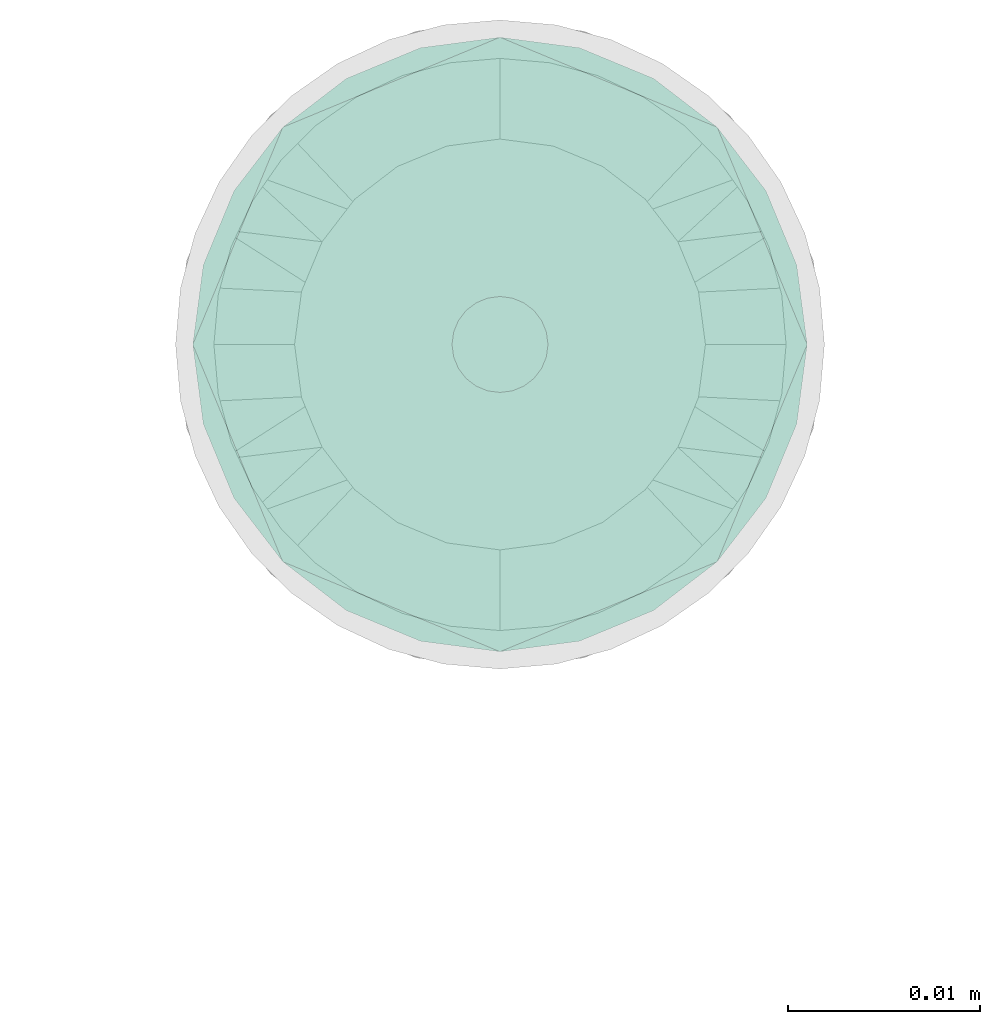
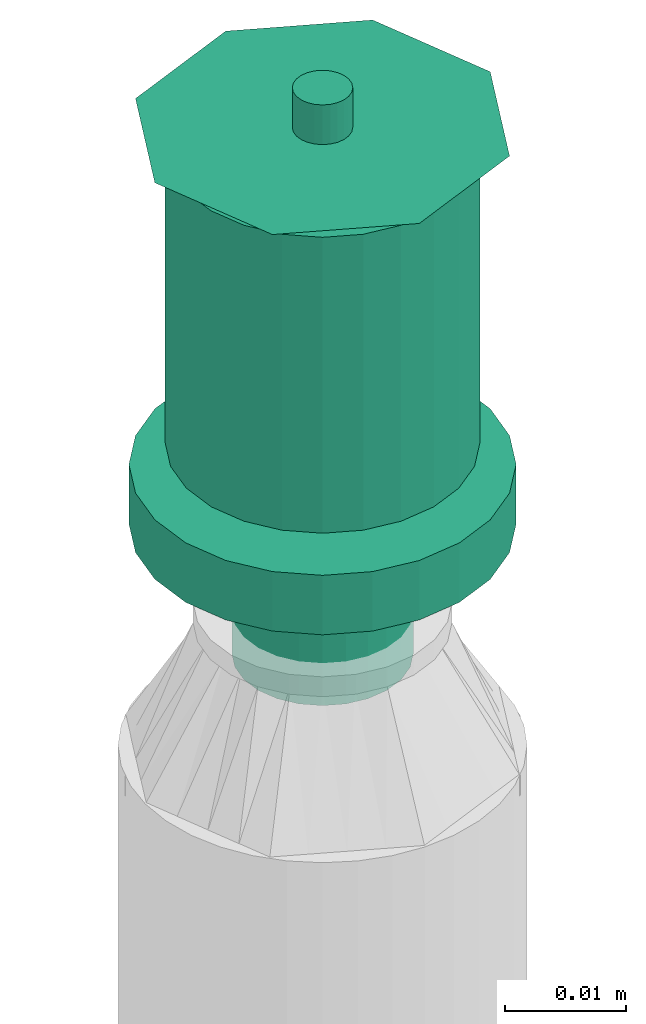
# One storey, part 34 of 44: 1 flow terminal.
"""IFC2X3 building model written with IfcOpenShell, lengths in millimetres."""

from ifc_helpers import new_model, entity, si_unit, converted_unit, derived_unit, direction, frame, origin_with_axes, place, context, subcontext, project, spatial, open_shell, surface_model, source, transform, mapped, type_object, element, save


model = new_model("IFC2X3")

# Units and contexts
model_context = context("Model", 3, precision=0.01, world=frame((0.0, 4.29681676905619e-09, 0.0)), true_north=direction((4.01073788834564e-13, 1.0)))
plan_context = context("Plan", 3, precision=0.01, world=frame((0.0, 4.29681676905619e-09, 0.0)), true_north=direction((4.01073788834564e-13, 1.0)))
body_context = subcontext(model_context, "Body", "Model", "MODEL_VIEW")
ifc_project = project(units=[converted_unit("PLANEANGLEUNIT", "DEGREE", entity("IfcPositiveLengthMeasure", 0.0174532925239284), si_unit("PLANEANGLEUNIT", "RADIAN"), dimensions=[0, 0, 0, 0, 0, 0, 0]), si_unit("AREAUNIT", "SQUARE_METRE"), si_unit("LENGTHUNIT", "METRE", prefix="MILLI"), si_unit("MASSUNIT", "GRAM", prefix="KILO"), si_unit("POWERUNIT", "WATT"), si_unit("PRESSUREUNIT", "PASCAL"), si_unit("FORCEUNIT", "NEWTON", prefix="KILO"), si_unit("ELECTRICVOLTAGEUNIT", "VOLT"), si_unit("ELECTRICCURRENTUNIT", "AMPERE"), si_unit("THERMODYNAMICTEMPERATUREUNIT", "DEGREE_CELSIUS"), si_unit("TIMEUNIT", "SECOND"), si_unit("VOLUMEUNIT", "CUBIC_METRE"), derived_unit("LINEARVELOCITYUNIT", [(si_unit("LENGTHUNIT", "METRE"), 1), (si_unit("TIMEUNIT", "SECOND"), -1)]), derived_unit("VOLUMETRICFLOWRATEUNIT", [(si_unit("VOLUMEUNIT", "CUBIC_METRE"), 1), (si_unit("TIMEUNIT", "SECOND"), -1)]), derived_unit("THERMALTRANSMITTANCEUNIT", [(si_unit("POWERUNIT", "WATT"), 1), (si_unit("THERMODYNAMICTEMPERATUREUNIT", "KELVIN"), -1), (si_unit("AREAUNIT", "SQUARE_METRE"), -1)]), derived_unit("SOUNDPRESSUREUNIT", [(si_unit("PRESSUREUNIT", "PASCAL"), 1)])], contexts=[model_context, plan_context])

# Site, building, storey
site_placement = place(None, frame((0.0, -4.29681676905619e-09, 0.0), z_axis=(0.0, 0.0, 1.0), x_axis=(1.0, 0.0, 0.0)))
site = spatial("IfcSite", under=ifc_project, at=site_placement, CompositionType="ELEMENT")
building_placement = place(site_placement, frame((0.0, 4.29681676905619e-09, 0.0), z_axis=(0.0, 0.0, 1.0), x_axis=(1.0, 0.0, 0.0)))
building = spatial("IfcBuilding", under=site, at=building_placement, Name="mc-building", CompositionType="ELEMENT")
storey_placement = place(building_placement, frame((0.0, 0.0, 207370.0), z_axis=(0.0, 0.0, 1.0), x_axis=(1.0, 0.0, 0.0)))
storey = spatial("IfcBuildingStorey", under=building, at=storey_placement, Name="Nivå E", CompositionType="ELEMENT", Elevation=207370.0)

# Flow terminal
fire_suppression_terminal_type = type_object("IfcFireSuppressionTerminalType", Name="68DGR-STD-STÅENDE", PredefinedType="NOTDEFINED")
shared_shape = source(origin_with_axes(), body_context, "Body", "SurfaceModel", [
    surface_model("IfcShellBasedSurfaceModel", [(3.36465, -12.55704, 51.0), (6.5, -11.25833, 51.0), (9.19239, -9.19239, 51.0), (12.55704, -3.36465, 51.0), (-11.25833, -6.5, 51.0), (11.25833, -6.5, 51.0), (-13.0, 0.0, 51.0), (0.0, -13.0, 51.0), (-6.5, -11.25833, 51.0), (-3.36465, -12.55704, 51.0), (-9.19239, -9.19239, 51.0), (-12.55704, -3.36465, 51.0), (13.0, 0.0, 51.0), (12.55704, 3.36465, 51.0), (11.25833, 6.5, 51.0), (9.19239, 9.19239, 51.0), (6.5, 11.25833, 51.0), (3.36465, 12.55704, 51.0), (0.0, 13.0, 51.0), (-3.36465, 12.55704, 51.0), (-12.55704, 3.36465, 51.0), (-9.19239, 9.19239, 51.0), (-11.25833, 6.5, 51.0), (-6.5, 11.25833, 51.0), (0.0, 13.0, 21.14766), (3.36465, 12.55704, 21.14766), (6.5, 11.25833, 21.14766), (-3.36465, 12.55704, 21.14766), (9.19239, 9.19239, 21.14766), (11.25833, 6.5, 21.14766), (12.55704, 3.36465, 21.14766), (-12.55704, 3.36465, 21.14766), (-11.25833, -6.5, 21.14766), (-9.19239, 9.19239, 21.14766), (-6.5, 11.25833, 21.14766), (-11.25833, 6.5, 21.14766), (-13.0, 0.0, 21.14766), (12.55704, -3.36465, 21.14766), (9.19239, -9.19239, 21.14766), (11.25833, -6.5, 21.14766), (6.5, -11.25833, 21.14766), (3.36465, -12.55704, 21.14766), (-6.5, -11.25833, 21.14766), (-9.19239, -9.19239, 21.14766), (-12.55704, -3.36465, 21.14766), (0.0, -13.0, 21.14766), (-3.36465, -12.55704, 21.14766), (13.0, 0.0, 21.14766), (7.24444, -1.94114, 0.1), (1.94114, -7.24444, 0.1), (3.75, -6.49519, 0.1), (5.3033, -5.3033, 0.1), (-5.3033, -5.3033, 0.1), (6.49519, -3.75, 0.1), (5.3033, 5.3033, 0.1), (0.0, -7.5, 0.1), (-3.75, -6.49519, 0.1), (-1.94114, -7.24444, 0.1), (-7.24444, -1.94114, 0.1), (-6.49519, -3.75, 0.1), (-7.24444, 1.94114, 0.1), (7.5, 0.0, 0.1), (6.49519, 3.75, 0.1), (-6.49519, 3.75, 0.1), (1.94114, 7.24444, 0.1), (0.0, 7.5, 0.1), (3.75, 6.49519, 0.1), (-7.5, 0.0, 0.1), (-5.3033, 5.3033, 0.1), (-1.94114, 7.24444, 0.1), (-3.75, 6.49519, 0.1), (7.24444, 1.94114, 0.1), (1.94114, 7.24444, -0.1), (-6.49519, 3.75, -0.1), (0.0, 7.5, -0.1), (5.3033, 5.3033, -0.1), (3.75, 6.49519, -0.1), (6.49519, 3.75, -0.1), (7.24444, 1.94114, -0.1), (-1.94114, 7.24444, -0.1), (-5.3033, 5.3033, -0.1), (-3.75, 6.49519, -0.1), (-7.24444, 1.94114, -0.1), (-7.24444, -1.94114, -0.1), (-7.5, 0.0, -0.1), (7.5, 0.0, -0.1), (7.24444, -1.94114, -0.1), (-5.3033, -5.3033, -0.1), (1.94114, -7.24444, -0.1), (6.49519, -3.75, -0.1), (5.3033, -5.3033, -0.1), (3.75, -6.49519, -0.1), (-6.49519, -3.75, -0.1), (-3.75, -6.49519, -0.1), (0.0, -7.5, -0.1), (-1.94114, -7.24444, -0.1), (0.0, -2.5, 51.0), (-2.5, 0.0, 51.0), (0.0, 2.5, 51.0), (2.5, 0.0, 51.0), (0.0, -16.0, 53.0), (11.31371, -11.31371, 53.0), (-11.31371, -11.31371, 53.0), (-16.0, 0.0, 53.0), (16.0, 0.0, 53.0), (11.31371, 11.31371, 53.0), (0.0, 16.0, 53.0), (-11.31371, 11.31371, 53.0), (1.25, -2.16506, 57.0), (0.0, -2.5, 57.0), (0.64705, -2.41481, 57.0), (2.41481, -0.64705, 57.0), (1.76777, -1.76777, 57.0), (-2.41481, -0.64705, 57.0), (-2.5, 0.0, 57.0), (2.16506, -1.25, 57.0), (-1.25, -2.16506, 57.0), (-0.64705, -2.41481, 57.0), (-1.76777, -1.76777, 57.0), (-2.16506, -1.25, 57.0), (2.5, 0.0, 57.0), (2.41481, 0.64705, 57.0), (2.16506, 1.25, 57.0), (1.76777, 1.76777, 57.0), (0.64705, 2.41481, 57.0), (1.25, 2.16506, 57.0), (-1.76777, 1.76777, 57.0), (0.0, 2.5, 57.0), (-2.16506, 1.25, 57.0), (-2.41481, 0.64705, 57.0), (-0.64705, 2.41481, 57.0), (-1.25, 2.16506, 57.0), (1.25, 2.16506, 51.0), (1.76777, 1.76777, 51.0), (1.15, 1.99186, 51.0), (0.59528, 2.22163, 51.0), (0.64705, 2.41481, 51.0), (0.0, 2.3, 51.0), (1.62635, 1.62635, 51.0), (2.41481, 0.64705, 51.0), (2.3, 0.0, 51.0), (2.22163, 0.59528, 51.0), (2.16506, 1.25, 51.0), (1.99186, 1.15, 51.0), (-0.59528, 2.22163, 51.0), (-0.64705, 2.41481, 51.0), (-1.15, 1.99186, 51.0), (-1.76777, 1.76777, 51.0), (-1.25, 2.16506, 51.0), (-1.62635, 1.62635, 51.0), (-1.99186, 1.15, 51.0), (-2.16506, 1.25, 51.0), (-2.22163, 0.59528, 51.0), (-2.41481, 0.64705, 51.0), (-2.3, 0.0, 51.0), (2.41481, -0.64705, 51.0), (2.22163, -0.59528, 51.0), (1.99186, -1.15, 51.0), (2.16506, -1.25, 51.0), (1.62635, -1.62635, 51.0), (1.76777, -1.76777, 51.0), (1.25, -2.16506, 51.0), (1.15, -1.99186, 51.0), (0.59528, -2.22163, 51.0), (0.64705, -2.41481, 51.0), (0.0, -2.3, 51.0), (-2.16506, -1.25, 51.0), (-1.99186, -1.15, 51.0), (-1.76777, -1.76777, 51.0), (-1.62635, -1.62635, 51.0), (-2.41481, -0.64705, 51.0), (-2.22163, -0.59528, 51.0), (-0.59528, -2.22163, 51.0), (-0.64705, -2.41481, 51.0), (-1.15, -1.99186, 51.0), (-1.25, -2.16506, 51.0), (1.62635, -1.62635, 56.8), (1.15, -1.99186, 56.8), (0.59528, -2.22163, 56.8), (0.0, -2.3, 56.8), (2.22163, 0.59528, 56.8), (1.99186, -1.15, 56.8), (2.22163, -0.59528, 56.8), (-0.59528, -2.22163, 56.8), (-1.15, -1.99186, 56.8), (-1.62635, -1.62635, 56.8), (-1.99186, -1.15, 56.8), (-2.22163, -0.59528, 56.8), (-1.99186, 1.15, 56.8), (2.3, 0.0, 56.8), (1.62635, 1.62635, 56.8), (1.99186, 1.15, 56.8), (1.15, 1.99186, 56.8), (0.0, 2.3, 56.8), (0.59528, 2.22163, 56.8), (-2.22163, 0.59528, 56.8), (-2.3, 0.0, 56.8), (-1.15, 1.99186, 56.8), (-0.59528, 2.22163, 56.8), (-1.62635, 1.62635, 56.8), (4.1411, -15.45481, 19.0), (8.0, -13.85641, 19.0), (11.31371, -11.31371, 19.0), (-8.0, -13.85641, 19.0), (15.45481, -4.1411, 19.0), (16.0, 0.0, 19.0), (13.85641, -8.0, 19.0), (0.0, -16.0, 19.0), (-4.1411, -15.45481, 19.0), (-13.85641, -8.0, 19.0), (-11.31371, -11.31371, 19.0), (-15.45481, -4.1411, 19.0), (15.45481, 4.1411, 19.0), (13.85641, 8.0, 19.0), (11.31371, 11.31371, 19.0), (-4.1411, 15.45481, 19.0), (8.0, 13.85641, 19.0), (4.1411, 15.45481, 19.0), (0.0, 16.0, 19.0), (-13.85641, 8.0, 19.0), (-15.45481, 4.1411, 19.0), (-16.0, 0.0, 19.0), (-11.31371, 11.31371, 19.0), (-8.0, 13.85641, 19.0), (0.0, 16.0, 13.0), (4.1411, 15.45481, 13.0), (8.0, 13.85641, 13.0), (-4.1411, 15.45481, 13.0), (11.31371, 11.31371, 13.0), (13.85641, 8.0, 13.0), (15.45481, 4.1411, 13.0), (-15.45481, -4.1411, 13.0), (-11.31371, 11.31371, 13.0), (-8.0, 13.85641, 13.0), (-13.85641, 8.0, 13.0), (-15.45481, 4.1411, 13.0), (-16.0, 0.0, 13.0), (4.1411, -15.45481, 13.0), (16.0, 0.0, 13.0), (15.45481, -4.1411, 13.0), (13.85641, -8.0, 13.0), (11.31371, -11.31371, 13.0), (8.0, -13.85641, 13.0), (-8.0, -13.85641, 13.0), (-13.85641, -8.0, 13.0), (-11.31371, -11.31371, 13.0), (0.0, -16.0, 13.0), (-4.1411, -15.45481, 13.0), (7.24444, -1.94114, 13.0), (1.94114, -7.24444, 13.0), (3.75, -6.49519, 13.0), (5.3033, -5.3033, 13.0), (-5.3033, -5.3033, 13.0), (6.49519, -3.75, 13.0), (5.3033, 5.3033, 13.0), (0.0, -7.5, 13.0), (-3.75, -6.49519, 13.0), (-1.94114, -7.24444, 13.0), (-7.24444, -1.94114, 13.0), (-6.49519, -3.75, 13.0), (-7.24444, 1.94114, 13.0), (7.5, 0.0, 13.0), (6.49519, 3.75, 13.0), (-6.49519, 3.75, 13.0), (1.94114, 7.24444, 13.0), (0.0, 7.5, 13.0), (3.75, 6.49519, 13.0), (-7.5, 0.0, 13.0), (-5.3033, 5.3033, 13.0), (-1.94114, 7.24444, 13.0), (-3.75, 6.49519, 13.0), (7.24444, 1.94114, 13.0), (3.75, 6.49519, 0.0), (5.3033, 5.3033, 0.0), (3.65, 6.32199, 0.0), (1.88938, 7.05126, 0.0), (0.0, 7.3, 0.0), (1.94114, 7.24444, 0.0), (0.0, 7.5, 0.0), (5.16188, 5.16188, 0.0), (7.24444, 1.94114, 0.0), (7.3, 0.0, 0.0), (7.05126, 1.88938, 0.0), (7.5, 0.0, 0.0), (6.49519, 3.75, 0.0), (6.32199, 3.65, 0.0), (-1.88938, 7.05126, 0.0), (-1.94114, 7.24444, 0.0), (-3.65, 6.32199, 0.0), (-5.3033, 5.3033, 0.0), (-3.75, 6.49519, 0.0), (-5.16188, 5.16188, 0.0), (-6.32199, 3.65, 0.0), (-6.49519, 3.75, 0.0), (-7.05126, 1.88938, 0.0), (-7.24444, 1.94114, 0.0), (-7.3, 0.0, 0.0), (-7.5, 0.0, 0.0), (7.24444, -1.94114, 0.0), (7.05126, -1.88938, 0.0), (6.32199, -3.65, 0.0), (6.49519, -3.75, 0.0), (5.16188, -5.16188, 0.0), (5.3033, -5.3033, 0.0), (3.75, -6.49519, 0.0), (3.65, -6.32199, 0.0), (1.88938, -7.05126, 0.0), (1.94114, -7.24444, 0.0), (0.0, -7.3, 0.0), (0.0, -7.5, 0.0), (-6.49519, -3.75, 0.0), (-6.32199, -3.65, 0.0), (-5.3033, -5.3033, 0.0), (-5.16188, -5.16188, 0.0), (-7.24444, -1.94114, 0.0), (-7.05126, -1.88938, 0.0), (-1.88938, -7.05126, 0.0), (-1.94114, -7.24444, 0.0), (-3.65, -6.32199, 0.0), (-3.75, -6.49519, 0.0), (1.88938, -7.05126, 12.8), (0.0, -7.3, 12.8), (3.65, -6.32199, 12.8), (5.16188, -5.16188, 12.8), (6.32199, -3.65, 12.8), (7.05126, 1.88938, 12.8), (7.05126, -1.88938, 12.8), (-5.16188, -5.16188, 12.8), (-1.88938, -7.05126, 12.8), (-3.65, -6.32199, 12.8), (-6.32199, -3.65, 12.8), (-7.05126, -1.88938, 12.8), (0.0, 7.3, 12.8), (7.3, 0.0, 12.8), (6.32199, 3.65, 12.8), (5.16188, 5.16188, 12.8), (3.65, 6.32199, 12.8), (1.88938, 7.05126, 12.8), (-6.32199, 3.65, 12.8), (-7.05126, 1.88938, 12.8), (-7.3, 0.0, 12.8), (-3.65, 6.32199, 12.8), (-1.88938, 7.05126, 12.8), (-5.16188, 5.16188, 12.8)], [open_shell([[[0, 1, 2]], [[0, 2, 3]], [[0, 3, 4]], [[3, 2, 5]], [[6, 4, 3]], [[7, 8, 9]], [[7, 0, 8]], [[8, 4, 10]], [[0, 4, 8]], [[4, 6, 11]], [[6, 3, 12]], [[13, 14, 15]], [[6, 13, 15]], [[16, 17, 18]], [[15, 16, 19]], [[18, 19, 16]], [[20, 21, 22]], [[20, 6, 15]], [[21, 19, 23]], [[19, 21, 20]], [[15, 19, 20]], [[13, 6, 12]], [[24, 25, 26]], [[27, 24, 26]], [[28, 29, 30]], [[26, 28, 31]], [[28, 32, 31]], [[27, 33, 34]], [[33, 27, 31]], [[33, 31, 35]], [[27, 26, 31]], [[31, 32, 36]], [[32, 28, 30]], [[32, 30, 37]], [[38, 37, 39]], [[38, 40, 41]], [[38, 41, 37]], [[32, 37, 41]], [[32, 42, 43]], [[44, 36, 32]], [[42, 45, 46]], [[42, 32, 41]], [[45, 42, 41]], [[30, 47, 37]], [[4, 32, 43]], [[8, 42, 46]], [[43, 42, 10]], [[9, 46, 45]], [[36, 11, 6]], [[11, 36, 44]], [[11, 44, 4]], [[44, 32, 4]], [[43, 10, 4]], [[8, 10, 42]], [[46, 9, 8]], [[45, 7, 9]], [[0, 41, 40]], [[38, 1, 40]], [[5, 39, 37]], [[38, 39, 2]], [[3, 37, 47]], [[41, 0, 7]], [[40, 1, 0]], [[38, 2, 1]], [[39, 5, 2]], [[3, 5, 37]], [[47, 12, 3]], [[41, 7, 45]], [[30, 13, 47]], [[29, 14, 30]], [[25, 24, 17]], [[15, 29, 28]], [[30, 14, 13]], [[13, 12, 47]], [[16, 26, 17]], [[16, 15, 28]], [[26, 25, 17]], [[15, 14, 29]], [[28, 26, 16]], [[24, 18, 17]], [[19, 27, 34]], [[33, 23, 34]], [[22, 35, 31]], [[33, 35, 21]], [[20, 31, 36]], [[27, 19, 18]], [[34, 23, 19]], [[33, 21, 23]], [[35, 22, 21]], [[20, 22, 31]], [[36, 6, 20]], [[27, 18, 24]], [[48, 49, 50]], [[48, 50, 51]], [[49, 48, 52]], [[48, 51, 53]], [[54, 52, 48]], [[55, 56, 57]], [[56, 55, 52]], [[52, 58, 59]], [[52, 55, 49]], [[52, 60, 58]], [[54, 48, 61]], [[62, 54, 61]], [[54, 63, 52]], [[64, 65, 54]], [[64, 54, 66]], [[63, 54, 65]], [[63, 60, 52]], [[67, 58, 60]], [[68, 69, 70]], [[69, 68, 63]], [[69, 63, 65]], [[71, 62, 61]], [[72, 73, 74]], [[75, 72, 76]], [[75, 77, 78]], [[72, 75, 73]], [[78, 73, 75]], [[79, 80, 81]], [[80, 79, 73]], [[74, 73, 79]], [[78, 82, 73]], [[82, 83, 84]], [[82, 78, 85]], [[86, 87, 85]], [[88, 86, 89]], [[90, 91, 88]], [[90, 88, 89]], [[87, 86, 88]], [[83, 87, 92]], [[83, 85, 87]], [[93, 94, 95]], [[94, 93, 87]], [[88, 94, 87]], [[85, 83, 82]], [[83, 58, 84]], [[92, 59, 83]], [[56, 87, 93]], [[92, 87, 52]], [[57, 93, 95]], [[83, 59, 58]], [[58, 67, 84]], [[57, 56, 93]], [[52, 87, 56]], [[52, 59, 92]], [[55, 57, 95]], [[95, 94, 55]], [[88, 49, 94]], [[91, 50, 88]], [[53, 90, 89]], [[91, 90, 51]], [[48, 89, 86]], [[91, 51, 50]], [[50, 49, 88]], [[61, 48, 86]], [[53, 89, 48]], [[53, 51, 90]], [[85, 61, 86]], [[94, 49, 55]], [[78, 71, 85]], [[77, 62, 78]], [[66, 75, 76]], [[77, 75, 54]], [[64, 76, 72]], [[78, 62, 71]], [[71, 61, 85]], [[64, 66, 76]], [[54, 75, 66]], [[54, 62, 77]], [[65, 64, 72]], [[72, 74, 65]], [[79, 69, 74]], [[81, 70, 79]], [[63, 80, 73]], [[81, 80, 68]], [[60, 73, 82]], [[81, 68, 70]], [[70, 69, 79]], [[67, 60, 82]], [[63, 73, 60]], [[63, 68, 80]], [[84, 67, 82]], [[74, 69, 65]], [[96, 97, 98]], [[98, 99, 96]], [[100, 101, 102]], [[103, 102, 101]], [[101, 104, 103]], [[104, 105, 106]], [[107, 103, 106]], [[106, 103, 104]], [[99, 98, 105]], [[105, 104, 99]], [[98, 106, 105]], [[98, 107, 106]], [[107, 98, 97]], [[103, 107, 97]], [[97, 96, 102]], [[102, 103, 97]], [[96, 100, 102]], [[96, 101, 100]], [[101, 96, 99]], [[104, 101, 99]], [[108, 109, 110]], [[111, 108, 112]], [[113, 108, 114]], [[111, 112, 115]], [[108, 111, 114]], [[109, 116, 117]], [[116, 109, 118]], [[118, 113, 119]], [[118, 109, 108]], [[108, 113, 118]], [[111, 120, 114]], [[121, 122, 123]], [[114, 121, 123]], [[114, 123, 124]], [[124, 123, 125]], [[126, 124, 127]], [[124, 128, 129]], [[129, 114, 124]], [[126, 130, 131]], [[128, 124, 126]], [[130, 126, 127]], [[121, 114, 120]], [[132, 133, 134]], [[132, 134, 135]], [[136, 135, 137]], [[135, 136, 132]], [[136, 137, 98]], [[134, 133, 138]], [[139, 140, 141]], [[140, 139, 99]], [[139, 141, 142]], [[138, 142, 143]], [[142, 138, 133]], [[143, 142, 141]], [[98, 144, 145]], [[98, 137, 144]], [[145, 144, 146]], [[147, 148, 149]], [[146, 148, 145]], [[149, 148, 146]], [[150, 151, 147]], [[151, 150, 152]], [[150, 147, 149]], [[153, 152, 154]], [[152, 153, 151]], [[153, 154, 97]], [[99, 155, 156]], [[156, 155, 157]], [[157, 158, 159]], [[158, 157, 155]], [[159, 158, 160]], [[160, 161, 162]], [[162, 161, 163]], [[163, 164, 165]], [[164, 163, 161]], [[165, 164, 96]], [[162, 159, 160]], [[166, 167, 168]], [[168, 167, 169]], [[167, 166, 170]], [[97, 171, 170]], [[170, 171, 167]], [[97, 154, 171]], [[172, 96, 173]], [[172, 173, 174]], [[169, 175, 168]], [[175, 169, 174]], [[175, 174, 173]], [[165, 96, 172]], [[156, 140, 99]], [[170, 113, 97]], [[166, 119, 170]], [[116, 168, 175]], [[166, 168, 118]], [[117, 175, 173]], [[170, 119, 113]], [[113, 114, 97]], [[117, 116, 175]], [[118, 168, 116]], [[118, 119, 166]], [[109, 117, 173]], [[173, 96, 109]], [[164, 110, 96]], [[161, 108, 164]], [[115, 160, 158]], [[161, 160, 112]], [[111, 158, 155]], [[161, 112, 108]], [[108, 110, 164]], [[120, 111, 155]], [[115, 158, 111]], [[115, 112, 160]], [[99, 120, 155]], [[96, 110, 109]], [[139, 121, 99]], [[142, 122, 139]], [[125, 133, 132]], [[142, 133, 123]], [[124, 132, 136]], [[139, 122, 121]], [[121, 120, 99]], [[124, 125, 132]], [[123, 133, 125]], [[123, 122, 142]], [[127, 124, 136]], [[136, 98, 127]], [[145, 130, 98]], [[148, 131, 145]], [[128, 147, 151]], [[148, 147, 126]], [[129, 151, 153]], [[148, 126, 131]], [[131, 130, 145]], [[114, 129, 153]], [[128, 151, 129]], [[128, 126, 147]], [[97, 114, 153]], [[98, 130, 127]], [[176, 177, 178]], [[176, 178, 179]], [[180, 176, 179]], [[181, 176, 182]], [[180, 182, 176]], [[183, 184, 179]], [[185, 179, 184]], [[186, 187, 185]], [[185, 187, 188]], [[179, 185, 188]], [[189, 182, 180]], [[190, 191, 180]], [[192, 190, 180]], [[193, 194, 192]], [[180, 193, 192]], [[188, 193, 180]], [[195, 188, 196]], [[196, 188, 187]], [[197, 198, 199]], [[188, 199, 198]], [[188, 198, 193]], [[180, 179, 188]], [[154, 187, 171]], [[171, 186, 167]], [[174, 169, 184]], [[185, 169, 167]], [[172, 174, 183]], [[187, 186, 171]], [[154, 196, 187]], [[174, 184, 183]], [[184, 169, 185]], [[167, 186, 185]], [[172, 183, 179]], [[179, 165, 172]], [[165, 178, 163]], [[163, 177, 162]], [[157, 159, 181]], [[176, 159, 162]], [[156, 157, 182]], [[177, 176, 162]], [[163, 178, 177]], [[156, 182, 189]], [[182, 157, 181]], [[159, 176, 181]], [[156, 189, 140]], [[179, 178, 165]], [[140, 180, 141]], [[141, 191, 143]], [[134, 138, 192]], [[190, 138, 143]], [[135, 134, 194]], [[180, 191, 141]], [[140, 189, 180]], [[134, 192, 194]], [[192, 138, 190]], [[143, 191, 190]], [[135, 194, 193]], [[193, 137, 135]], [[137, 198, 144]], [[144, 197, 146]], [[150, 149, 188]], [[199, 149, 146]], [[152, 150, 195]], [[197, 199, 146]], [[144, 198, 197]], [[152, 195, 196]], [[195, 150, 188]], [[149, 199, 188]], [[152, 196, 154]], [[193, 198, 137]], [[200, 201, 202]], [[203, 200, 202]], [[204, 205, 202]], [[204, 202, 206]], [[203, 202, 205]], [[207, 203, 208]], [[207, 200, 203]], [[203, 209, 210]], [[209, 203, 211]], [[205, 211, 203]], [[205, 212, 211]], [[212, 213, 214]], [[215, 212, 214]], [[216, 217, 218]], [[214, 216, 215]], [[218, 215, 216]], [[211, 219, 220]], [[221, 211, 220]], [[222, 215, 223]], [[215, 222, 219]], [[219, 211, 215]], [[211, 212, 215]], [[224, 225, 226]], [[227, 224, 226]], [[228, 229, 230]], [[227, 226, 228]], [[227, 228, 231]], [[227, 232, 233]], [[232, 227, 234]], [[234, 231, 235]], [[231, 234, 227]], [[235, 231, 236]], [[228, 230, 231]], [[237, 238, 239]], [[237, 239, 240]], [[241, 242, 237]], [[241, 237, 240]], [[238, 237, 243]], [[244, 243, 245]], [[243, 244, 231]], [[243, 246, 247]], [[243, 231, 238]], [[237, 246, 243]], [[238, 231, 230]], [[231, 211, 236]], [[244, 209, 231]], [[203, 245, 243]], [[244, 245, 210]], [[208, 243, 247]], [[231, 209, 211]], [[211, 221, 236]], [[208, 203, 243]], [[210, 245, 203]], [[210, 209, 244]], [[207, 208, 247]], [[247, 246, 207]], [[237, 200, 246]], [[242, 201, 237]], [[206, 241, 240]], [[242, 241, 202]], [[204, 240, 239]], [[242, 202, 201]], [[201, 200, 237]], [[205, 204, 239]], [[206, 240, 204]], [[206, 202, 241]], [[238, 205, 239]], [[246, 200, 207]], [[230, 212, 238]], [[229, 213, 230]], [[216, 228, 226]], [[229, 228, 214]], [[217, 226, 225]], [[230, 213, 212]], [[212, 205, 238]], [[217, 216, 226]], [[214, 228, 216]], [[214, 213, 229]], [[218, 217, 225]], [[225, 224, 218]], [[227, 215, 224]], [[233, 223, 227]], [[219, 232, 234]], [[233, 232, 222]], [[220, 234, 235]], [[233, 222, 223]], [[223, 215, 227]], [[221, 220, 235]], [[219, 234, 220]], [[219, 222, 232]], [[236, 221, 235]], [[224, 215, 218]], [[248, 249, 250]], [[248, 250, 251]], [[249, 248, 252]], [[248, 251, 253]], [[254, 252, 248]], [[255, 256, 257]], [[256, 255, 252]], [[252, 258, 259]], [[252, 255, 249]], [[252, 260, 258]], [[254, 248, 261]], [[262, 254, 261]], [[254, 263, 252]], [[264, 265, 254]], [[264, 254, 266]], [[263, 254, 265]], [[263, 260, 252]], [[267, 258, 260]], [[268, 269, 270]], [[269, 268, 263]], [[269, 263, 265]], [[271, 262, 261]], [[272, 273, 274]], [[272, 274, 275]], [[276, 277, 275]], [[277, 276, 278]], [[275, 277, 272]], [[274, 273, 279]], [[280, 281, 282]], [[281, 280, 283]], [[280, 282, 284]], [[279, 284, 285]], [[284, 279, 273]], [[285, 284, 282]], [[278, 286, 287]], [[287, 286, 288]], [[289, 290, 291]], [[288, 290, 287]], [[288, 291, 290]], [[278, 276, 286]], [[292, 293, 289]], [[293, 292, 294]], [[292, 289, 291]], [[295, 294, 296]], [[294, 295, 293]], [[295, 296, 297]], [[283, 298, 299]], [[299, 298, 300]], [[300, 301, 302]], [[301, 300, 298]], [[302, 301, 303]], [[303, 304, 305]], [[305, 304, 306]], [[306, 307, 308]], [[307, 306, 304]], [[308, 307, 309]], [[305, 302, 303]], [[310, 311, 312]], [[312, 311, 313]], [[311, 310, 314]], [[297, 315, 314]], [[314, 315, 311]], [[297, 296, 315]], [[316, 309, 317]], [[316, 317, 318]], [[313, 319, 312]], [[313, 318, 319]], [[319, 318, 317]], [[308, 309, 316]], [[299, 281, 283]], [[314, 258, 297]], [[310, 259, 314]], [[256, 312, 319]], [[310, 312, 252]], [[257, 319, 317]], [[314, 259, 258]], [[258, 267, 297]], [[257, 256, 319]], [[252, 312, 256]], [[252, 259, 310]], [[255, 257, 317]], [[317, 309, 255]], [[307, 249, 309]], [[304, 250, 307]], [[253, 303, 301]], [[304, 303, 251]], [[248, 301, 298]], [[304, 251, 250]], [[250, 249, 307]], [[261, 248, 298]], [[253, 301, 248]], [[253, 251, 303]], [[283, 261, 298]], [[309, 249, 255]], [[280, 271, 283]], [[284, 262, 280]], [[266, 273, 272]], [[284, 273, 254]], [[264, 272, 277]], [[280, 262, 271]], [[271, 261, 283]], [[264, 266, 272]], [[254, 273, 266]], [[254, 262, 284]], [[265, 264, 277]], [[277, 278, 265]], [[287, 269, 278]], [[290, 270, 287]], [[263, 289, 293]], [[290, 289, 268]], [[260, 293, 295]], [[290, 268, 270]], [[270, 269, 287]], [[267, 260, 295]], [[263, 293, 260]], [[263, 268, 289]], [[297, 267, 295]], [[278, 269, 265]], [[320, 321, 322]], [[323, 322, 324]], [[325, 326, 322]], [[324, 322, 326]], [[322, 327, 325]], [[328, 329, 321]], [[327, 321, 329]], [[330, 331, 327]], [[322, 321, 327]], [[331, 332, 327]], [[326, 325, 333]], [[334, 325, 332]], [[335, 334, 336]], [[332, 337, 336]], [[334, 332, 336]], [[331, 338, 332]], [[339, 338, 340]], [[340, 338, 331]], [[341, 342, 343]], [[332, 338, 343]], [[332, 343, 342]], [[332, 325, 327]], [[296, 331, 315]], [[315, 330, 311]], [[318, 313, 329]], [[327, 313, 311]], [[316, 318, 328]], [[331, 330, 315]], [[296, 340, 331]], [[318, 329, 328]], [[329, 313, 327]], [[311, 330, 327]], [[316, 328, 321]], [[321, 308, 316]], [[308, 320, 306]], [[306, 322, 305]], [[300, 302, 324]], [[323, 302, 305]], [[299, 300, 326]], [[322, 323, 305]], [[306, 320, 322]], [[299, 326, 333]], [[326, 300, 324]], [[302, 323, 324]], [[299, 333, 281]], [[321, 320, 308]], [[281, 325, 282]], [[282, 334, 285]], [[274, 279, 336]], [[335, 279, 285]], [[275, 274, 337]], [[325, 334, 282]], [[281, 333, 325]], [[274, 336, 337]], [[336, 279, 335]], [[285, 334, 335]], [[275, 337, 332]], [[332, 276, 275]], [[276, 342, 286]], [[286, 341, 288]], [[292, 291, 338]], [[343, 291, 288]], [[294, 292, 339]], [[341, 343, 288]], [[286, 342, 341]], [[294, 339, 340]], [[339, 292, 338]], [[291, 343, 338]], [[294, 340, 296]], [[332, 342, 276]]])]),
])
flow_terminal_placement = place(storey_placement, frame((533500.0, 459009.83177, 3036.95754999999), z_axis=(0.0, 0.0, 1.0), x_axis=(1.0, 0.0, 0.0)))
element("IfcFlowTerminal", 1, at=flow_terminal_placement, inside=storey, type_object=fire_suppression_terminal_type, Name="68DGR-STD-STÅENDE", context=body_context, shape_type="MappedRepresentation", body=[
    mapped(shared_shape, transform((0.0, 0.0, 0.0), scale=1.0)),
])

save(model, "model.ifc")
